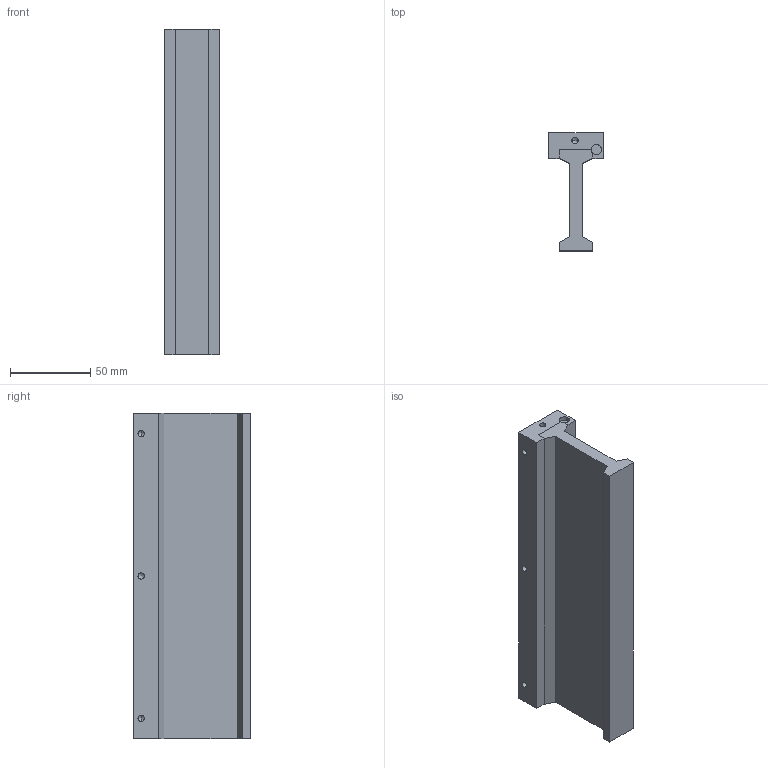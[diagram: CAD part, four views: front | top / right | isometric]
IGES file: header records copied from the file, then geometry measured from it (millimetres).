
Global section: file name: No Iges File Name specified; native system: AutoDesk Inventor R11.0; preprocessor: AutoDesk Inventor Iges Exporter R11.0; author: No Author specified; organization: No Organization specified; date: 20080205.101048; units: inch
Bounding box: 34.29 x 73.66 x 203.2 mm (x, y, z)
Volume: 225624.6 mm3; surface area: 49997.7 mm2
Topology: 1 solids, 1 shells, 41 faces, 105 edges, 61 vertices
Faces by surface type: bspline 20, plane 19, revolution 2
